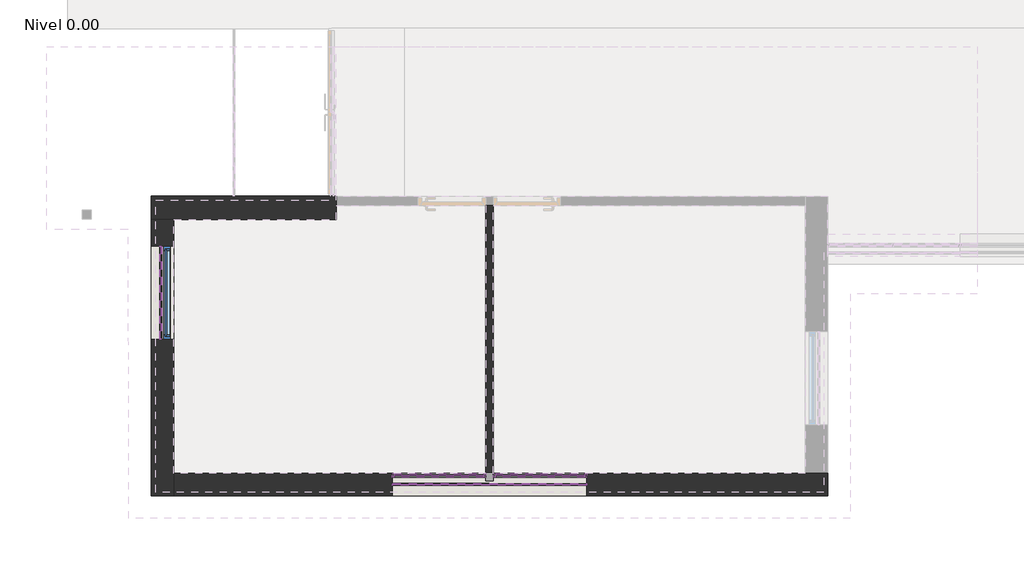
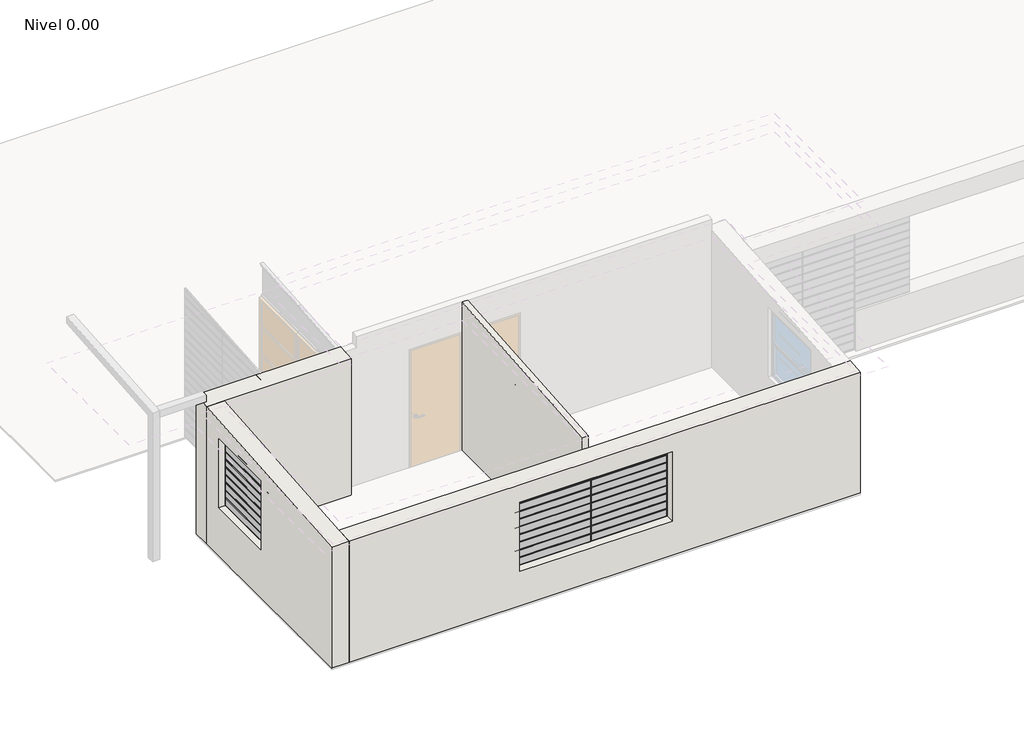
# One storey, part 1 of 27: 89 members, 31 plates, 4 walls, 1 window.
"""IFC4 building model written with IfcOpenShell, lengths in millimetres."""

from ifc_helpers import new_model, si_unit, frame, origin, place, context, project, spatial, polyline, outline, extrude, faceted_brep, transform, mapped, element, save
from components import circular_mullion_edf12572, circular_mullion_5fc61161, l_corner_mullion_ffe6738e, l_corner_mullion_b20a5560, rectangular_mullion_01e7d57b, rectangular_mullion_da198025, rectangular_mullion_fe8fcd1f, rectangular_mullion_df0a624f, rectangular_mullion_9be61cad, rectangular_mullion_3a2f2e9c, rectangular_mullion_9a28259a, system_panel_1e98c8c1, system_panel_f1ade770, system_panel_1891fa89, system_panel_e1d120a6, system_panel_glazed_873ae882, system_panel_glazed_855c2b63, vp_1250x1250mm_1945258d

model = new_model("IFC4")

# Units and contexts
model_context = context("Model", 3, world=origin())
ifc_project = project(units=[si_unit("LENGTHUNIT", "METRE", prefix="MILLI")], contexts=[model_context])

# Site, building, storey
site = spatial("IfcSite", under=ifc_project)
building = spatial("IfcBuilding", under=site)
storey = spatial("IfcBuildingStorey", under=building, Name="Nivel 0.00", Elevation=0.0)

# Members
placement = place(None, origin())
circular_mullion_shape = circular_mullion_edf12572(model_context)
element("IfcMember", 1, ObjectType="Circular Mullion : ARQ_HERR_16mm", at=placement, inside=storey, context=model_context, shape_type="MappedRepresentation", body=[
    mapped(circular_mullion_shape, transform((-10491.1218919, -6940.6047653, 738.8888889), x_axis=(0.0, 0.0, 1.0), y_axis=(0.0, -1.0, 0.0), z_axis=(1.0, 0.0, 0.0))),
])
element("IfcMember", 2, ObjectType="Circular Mullion : ARQ_HERR_16mm", at=placement, inside=storey, context=model_context, shape_type="MappedRepresentation", body=[
    mapped(circular_mullion_shape, transform((-9193.0112732, -6940.6047653, 738.8888889), x_axis=(0.0, 0.0, 1.0), y_axis=(0.0, -1.0, 0.0), z_axis=(1.0, 0.0, 0.0))),
])
element("IfcMember", 3, ObjectType="Circular Mullion : ARQ_HERR_16mm", at=placement, inside=storey, context=model_context, shape_type="MappedRepresentation", body=[
    mapped(circular_mullion_shape, transform((-10491.1218919, -6940.6047653, 877.7777778), x_axis=(0.0, 0.0, 1.0), y_axis=(0.0, -1.0, 0.0), z_axis=(1.0, 0.0, 0.0))),
])
element("IfcMember", 4, ObjectType="Circular Mullion : ARQ_HERR_16mm", at=placement, inside=storey, context=model_context, shape_type="MappedRepresentation", body=[
    mapped(circular_mullion_shape, transform((-9193.0112732, -6940.6047653, 877.7777778), x_axis=(0.0, 0.0, 1.0), y_axis=(0.0, -1.0, 0.0), z_axis=(1.0, 0.0, 0.0))),
])
element("IfcMember", 5, ObjectType="Circular Mullion : ARQ_HERR_16mm", at=placement, inside=storey, context=model_context, shape_type="MappedRepresentation", body=[
    mapped(circular_mullion_shape, transform((-10491.1218919, -6940.6047653, 1016.6666667), x_axis=(0.0, 0.0, 1.0), y_axis=(0.0, -1.0, 0.0), z_axis=(1.0, 0.0, 0.0))),
])
element("IfcMember", 6, ObjectType="Circular Mullion : ARQ_HERR_16mm", at=placement, inside=storey, context=model_context, shape_type="MappedRepresentation", body=[
    mapped(circular_mullion_shape, transform((-9193.0112732, -6940.6047653, 1016.6666667), x_axis=(0.0, 0.0, 1.0), y_axis=(0.0, -1.0, 0.0), z_axis=(1.0, 0.0, 0.0))),
])
element("IfcMember", 7, ObjectType="Circular Mullion : ARQ_HERR_16mm", at=placement, inside=storey, context=model_context, shape_type="MappedRepresentation", body=[
    mapped(circular_mullion_shape, transform((-10491.1218919, -6940.6047653, 1155.5555556), x_axis=(0.0, 0.0, 1.0), y_axis=(0.0, -1.0, 0.0), z_axis=(1.0, 0.0, 0.0))),
])
element("IfcMember", 8, ObjectType="Circular Mullion : ARQ_HERR_16mm", at=placement, inside=storey, context=model_context, shape_type="MappedRepresentation", body=[
    mapped(circular_mullion_shape, transform((-9193.0112732, -6940.6047653, 1155.5555556), x_axis=(0.0, 0.0, 1.0), y_axis=(0.0, -1.0, 0.0), z_axis=(1.0, 0.0, 0.0))),
])
element("IfcMember", 9, ObjectType="Circular Mullion : ARQ_HERR_16mm", at=placement, inside=storey, context=model_context, shape_type="MappedRepresentation", body=[
    mapped(circular_mullion_shape, transform((-10491.1218919, -6940.6047653, 1294.4444444), x_axis=(0.0, 0.0, 1.0), y_axis=(0.0, -1.0, 0.0), z_axis=(1.0, 0.0, 0.0))),
])
element("IfcMember", 10, ObjectType="Circular Mullion : ARQ_HERR_16mm", at=placement, inside=storey, context=model_context, shape_type="MappedRepresentation", body=[
    mapped(circular_mullion_shape, transform((-9193.0112732, -6940.6047653, 1294.4444444), x_axis=(0.0, 0.0, 1.0), y_axis=(0.0, -1.0, 0.0), z_axis=(1.0, 0.0, 0.0))),
])
element("IfcMember", 11, ObjectType="Circular Mullion : ARQ_HERR_16mm", at=placement, inside=storey, context=model_context, shape_type="MappedRepresentation", body=[
    mapped(circular_mullion_shape, transform((-10491.1218919, -6940.6047653, 1433.3333333), x_axis=(0.0, 0.0, 1.0), y_axis=(0.0, -1.0, 0.0), z_axis=(1.0, 0.0, 0.0))),
])
element("IfcMember", 12, ObjectType="Circular Mullion : ARQ_HERR_16mm", at=placement, inside=storey, context=model_context, shape_type="MappedRepresentation", body=[
    mapped(circular_mullion_shape, transform((-9193.0112732, -6940.6047653, 1433.3333333), x_axis=(0.0, 0.0, 1.0), y_axis=(0.0, -1.0, 0.0), z_axis=(1.0, 0.0, 0.0))),
])
element("IfcMember", 13, ObjectType="Circular Mullion : ARQ_HERR_16mm", at=placement, inside=storey, context=model_context, shape_type="MappedRepresentation", body=[
    mapped(circular_mullion_shape, transform((-10491.1218919, -6940.6047653, 1572.2222222), x_axis=(0.0, 0.0, 1.0), y_axis=(0.0, -1.0, 0.0), z_axis=(1.0, 0.0, 0.0))),
])
element("IfcMember", 14, ObjectType="Circular Mullion : ARQ_HERR_16mm", at=placement, inside=storey, context=model_context, shape_type="MappedRepresentation", body=[
    mapped(circular_mullion_shape, transform((-9193.0112732, -6940.6047653, 1572.2222222), x_axis=(0.0, 0.0, 1.0), y_axis=(0.0, -1.0, 0.0), z_axis=(1.0, 0.0, 0.0))),
])
element("IfcMember", 15, ObjectType="Circular Mullion : ARQ_HERR_16mm", at=placement, inside=storey, context=model_context, shape_type="MappedRepresentation", body=[
    mapped(circular_mullion_shape, transform((-10491.1218919, -6940.6047653, 1711.1111111), x_axis=(0.0, 0.0, 1.0), y_axis=(0.0, -1.0, 0.0), z_axis=(1.0, 0.0, 0.0))),
])
element("IfcMember", 16, ObjectType="Circular Mullion : ARQ_HERR_16mm", at=placement, inside=storey, context=model_context, shape_type="MappedRepresentation", body=[
    mapped(circular_mullion_shape, transform((-9193.0112732, -6940.6047653, 1711.1111111), x_axis=(0.0, 0.0, 1.0), y_axis=(0.0, -1.0, 0.0), z_axis=(1.0, 0.0, 0.0))),
])
circular_mullion_2_shape = circular_mullion_5fc61161(model_context)
element("IfcMember", 17, ObjectType="Circular Mullion : ARQ_HERR_16mm", at=placement, inside=storey, context=model_context, shape_type="MappedRepresentation", body=[
    mapped(circular_mullion_2_shape, transform((-14883.0691788, -4992.0878798, 988.8888889), x_axis=(0.0, 0.0, 1.0), y_axis=(-1.0, 0.0, 0.0), z_axis=(0.0, -1.0, 0.0))),
])
element("IfcMember", 18, ObjectType="Circular Mullion : ARQ_HERR_16mm", at=placement, inside=storey, context=model_context, shape_type="MappedRepresentation", body=[
    mapped(circular_mullion_2_shape, transform((-14883.0691788, -4992.0878798, 1127.7777778), x_axis=(0.0, 0.0, 1.0), y_axis=(-1.0, 0.0, 0.0), z_axis=(0.0, -1.0, 0.0))),
])
element("IfcMember", 19, ObjectType="Circular Mullion : ARQ_HERR_16mm", at=placement, inside=storey, context=model_context, shape_type="MappedRepresentation", body=[
    mapped(circular_mullion_2_shape, transform((-14883.0691788, -4992.0878798, 1266.6666667), x_axis=(0.0, 0.0, 1.0), y_axis=(-1.0, 0.0, 0.0), z_axis=(0.0, -1.0, 0.0))),
])
element("IfcMember", 20, ObjectType="Circular Mullion : ARQ_HERR_16mm", at=placement, inside=storey, context=model_context, shape_type="MappedRepresentation", body=[
    mapped(circular_mullion_2_shape, transform((-14883.0691788, -4992.0878798, 1405.5555556), x_axis=(0.0, 0.0, 1.0), y_axis=(-1.0, 0.0, 0.0), z_axis=(0.0, -1.0, 0.0))),
])
element("IfcMember", 21, ObjectType="Circular Mullion : ARQ_HERR_16mm", at=placement, inside=storey, context=model_context, shape_type="MappedRepresentation", body=[
    mapped(circular_mullion_2_shape, transform((-14883.0691788, -4992.0878798, 1544.4444444), x_axis=(0.0, 0.0, 1.0), y_axis=(-1.0, 0.0, 0.0), z_axis=(0.0, -1.0, 0.0))),
])
element("IfcMember", 22, ObjectType="Circular Mullion : ARQ_HERR_16mm", at=placement, inside=storey, context=model_context, shape_type="MappedRepresentation", body=[
    mapped(circular_mullion_2_shape, transform((-14883.0691788, -4992.0878798, 1683.3333333), x_axis=(0.0, 0.0, 1.0), y_axis=(-1.0, 0.0, 0.0), z_axis=(0.0, -1.0, 0.0))),
])
element("IfcMember", 23, ObjectType="Circular Mullion : ARQ_HERR_16mm", at=placement, inside=storey, context=model_context, shape_type="MappedRepresentation", body=[
    mapped(circular_mullion_2_shape, transform((-14883.0691788, -4992.0878798, 1822.2222222), x_axis=(0.0, 0.0, 1.0), y_axis=(-1.0, 0.0, 0.0), z_axis=(0.0, -1.0, 0.0))),
])
element("IfcMember", 24, ObjectType="Circular Mullion : ARQ_HERR_16mm", at=placement, inside=storey, context=model_context, shape_type="MappedRepresentation", body=[
    mapped(circular_mullion_2_shape, transform((-14883.0691788, -4992.0878798, 1961.1111111), x_axis=(0.0, 0.0, 1.0), y_axis=(-1.0, 0.0, 0.0), z_axis=(0.0, -1.0, 0.0))),
])
l_corner_mullion_shape = l_corner_mullion_ffe6738e(model_context)
element("IfcMember", 25, ObjectType="L Corner Mullion : ARQ_HERR_15X6mm", at=placement, inside=storey, context=model_context, shape_type="MappedRepresentation", body=[
    mapped(l_corner_mullion_shape, transform((-9193.0112732, -6940.6047653, 1850.0), x_axis=(0.0, 0.0, 1.0), y_axis=(0.0, -1.0, 0.0), z_axis=(1.0, 0.0, 0.0))),
])
element("IfcMember", 26, ObjectType="L Corner Mullion : ARQ_HERR_15X6mm", at=placement, inside=storey, context=model_context, shape_type="MappedRepresentation", body=[
    mapped(l_corner_mullion_shape, transform((-10491.1218919, -6940.6047653, 1850.0), x_axis=(0.0, 0.0, 1.0), y_axis=(0.0, -1.0, 0.0), z_axis=(1.0, 0.0, 0.0))),
])
element("IfcMember", 27, ObjectType="L Corner Mullion : ARQ_HERR_15X6mm", at=placement, inside=storey, context=model_context, shape_type="MappedRepresentation", body=[
    mapped(l_corner_mullion_shape, transform((-11783.2325105, -6940.6047653, 600.0), x_axis=(0.0, 0.0, -1.0), y_axis=(0.0, -1.0, 0.0), z_axis=(-1.0, 0.0, 0.0))),
])
element("IfcMember", 28, ObjectType="L Corner Mullion : ARQ_HERR_15X6mm", at=placement, inside=storey, context=model_context, shape_type="MappedRepresentation", body=[
    mapped(l_corner_mullion_shape, transform((-10485.1218919, -6940.6047653, 600.0), x_axis=(0.0, 0.0, -1.0), y_axis=(0.0, -1.0, 0.0), z_axis=(-1.0, 0.0, 0.0))),
])
l_corner_mullion_2_shape = l_corner_mullion_b20a5560(model_context)
element("IfcMember", 29, ObjectType="L Corner Mullion : ARQ_HERR_15X6mm", at=placement, inside=storey, context=model_context, shape_type="MappedRepresentation", body=[
    mapped(l_corner_mullion_2_shape, transform((-14883.0691788, -4992.0878798, 2100.0), x_axis=(0.0, 0.0, 1.0), y_axis=(-1.0, 0.0, 0.0), z_axis=(0.0, -1.0, 0.0))),
])
element("IfcMember", 30, ObjectType="L Corner Mullion : ARQ_HERR_15X6mm", at=placement, inside=storey, context=model_context, shape_type="MappedRepresentation", body=[
    mapped(l_corner_mullion_2_shape, transform((-14883.0691788, -3754.0878798, 850.0), x_axis=(0.0, 0.0, -1.0), y_axis=(-1.0, 0.0, 0.0), z_axis=(0.0, 1.0, 0.0))),
])
rectangular_mullion_shape = rectangular_mullion_01e7d57b(model_context)
element("IfcMember", 31, ObjectType="Rectangular Mullion : ARQ_TV_MULL_50x30mm", at=placement, inside=storey, context=model_context, shape_type="MappedRepresentation", body=[
    mapped(rectangular_mullion_shape, transform((-10567.8124755, -6815.6047653, 1850.0), x_axis=(0.0, 0.0, 1.0), y_axis=(0.0, -1.0, 0.0), z_axis=(1.0, 0.0, 0.0))),
])
element("IfcMember", 32, ObjectType="Rectangular Mullion : ARQ_TV_MULL_50x30mm", at=placement, inside=storey, context=model_context, shape_type="MappedRepresentation", body=[
    mapped(rectangular_mullion_shape, transform((-11759.2325105, -6815.6047653, 600.0), x_axis=(0.0, 0.0, -1.0), y_axis=(0.0, -1.0, 0.0), z_axis=(-1.0, 0.0, 0.0))),
])
rectangular_mullion_2_shape = rectangular_mullion_da198025(model_context)
element("IfcMember", 33, ObjectType="Rectangular Mullion : ARQ_TV_MULL_50x30mm", at=placement, inside=storey, context=model_context, shape_type="MappedRepresentation", body=[
    mapped(rectangular_mullion_2_shape, transform((-10567.8124755, -6815.6047653, 1225.0), x_axis=(0.0, 0.0, 1.0), y_axis=(0.0, -1.0, 0.0), z_axis=(1.0, 0.0, 0.0))),
])
rectangular_mullion_3_shape = rectangular_mullion_fe8fcd1f(model_context)
element("IfcMember", 34, ObjectType="Rectangular Mullion : ARQ_TV_MULL_50x30mm", at=placement, inside=storey, context=model_context, shape_type="MappedRepresentation", body=[
    mapped(rectangular_mullion_3_shape, transform((-10407.8124755, -6815.6047653, 1850.0), x_axis=(0.0, 0.0, 1.0), y_axis=(0.0, 1.0, 0.0), z_axis=(-1.0, 0.0, 0.0))),
])
element("IfcMember", 35, ObjectType="Rectangular Mullion : ARQ_TV_MULL_50x30mm", at=placement, inside=storey, context=model_context, shape_type="MappedRepresentation", body=[
    mapped(rectangular_mullion_3_shape, transform((-9217.0112732, -6815.6047653, 600.0), x_axis=(0.0, 0.0, -1.0), y_axis=(0.0, 1.0, 0.0), z_axis=(1.0, 0.0, 0.0))),
])
rectangular_mullion_4_shape = rectangular_mullion_df0a624f(model_context)
element("IfcMember", 36, ObjectType="Rectangular Mullion : ARQ_TV_MULL_50x30mm", at=placement, inside=storey, context=model_context, shape_type="MappedRepresentation", body=[
    mapped(rectangular_mullion_4_shape, transform((-10407.8124755, -6815.6047653, 1225.0), x_axis=(0.0, 0.0, 1.0), y_axis=(0.0, 1.0, 0.0), z_axis=(-1.0, 0.0, 0.0))),
])
rectangular_mullion_5_shape = rectangular_mullion_9be61cad(model_context)
element("IfcMember", 37, ObjectType="Rectangular Mullion : ARQ_TV_MULL_50x30mm", at=placement, inside=storey, context=model_context, shape_type="MappedRepresentation", body=[
    mapped(rectangular_mullion_5_shape, transform((-10437.8124755, -6815.6047653, 600.0), x_axis=(-1.0, 0.0, 0.0), y_axis=(0.0, 1.0, 0.0), z_axis=(0.0, 0.0, -1.0))),
])
element("IfcMember", 38, ObjectType="Rectangular Mullion : ARQ_TV_MULL_50x30mm", at=placement, inside=storey, context=model_context, shape_type="MappedRepresentation", body=[
    mapped(rectangular_mullion_5_shape, transform((-10437.8124755, -6815.6047653, 1225.0), x_axis=(-1.0, 0.0, 0.0), y_axis=(0.0, 1.0, 0.0), z_axis=(0.0, 0.0, -1.0))),
])
element("IfcMember", 39, ObjectType="Rectangular Mullion : ARQ_TV_MULL_50x30mm", at=placement, inside=storey, context=model_context, shape_type="MappedRepresentation", body=[
    mapped(rectangular_mullion_5_shape, transform((-9187.0112732, -6815.6047653, 1850.0), x_axis=(1.0, 0.0, 0.0), y_axis=(0.0, 1.0, 0.0), z_axis=(0.0, 0.0, 1.0))),
])
element("IfcMember", 40, ObjectType="Rectangular Mullion : ARQ_TV_MULL_50x30mm", at=placement, inside=storey, context=model_context, shape_type="MappedRepresentation", body=[
    mapped(rectangular_mullion_5_shape, transform((-9187.0112732, -6815.6047653, 1225.0), x_axis=(1.0, 0.0, 0.0), y_axis=(0.0, 1.0, 0.0), z_axis=(0.0, 0.0, 1.0))),
])
element("IfcMember", 41, ObjectType="Rectangular Mullion : ARQ_TV_MULL_50x30mm", at=placement, inside=storey, context=model_context, shape_type="MappedRepresentation", body=[
    mapped(rectangular_mullion_5_shape, transform((-10537.8124755, -6815.6047653, 600.0), x_axis=(1.0, 0.0, 0.0), y_axis=(0.0, -1.0, 0.0), z_axis=(0.0, 0.0, -1.0))),
])
element("IfcMember", 42, ObjectType="Rectangular Mullion : ARQ_TV_MULL_50x30mm", at=placement, inside=storey, context=model_context, shape_type="MappedRepresentation", body=[
    mapped(rectangular_mullion_5_shape, transform((-10537.8124755, -6815.6047653, 1225.0), x_axis=(1.0, 0.0, 0.0), y_axis=(0.0, -1.0, 0.0), z_axis=(0.0, 0.0, -1.0))),
])
element("IfcMember", 43, ObjectType="Rectangular Mullion : ARQ_TV_MULL_50x30mm", at=placement, inside=storey, context=model_context, shape_type="MappedRepresentation", body=[
    mapped(rectangular_mullion_5_shape, transform((-11789.2325105, -6815.6047653, 1850.0), x_axis=(-1.0, 0.0, 0.0), y_axis=(0.0, -1.0, 0.0), z_axis=(0.0, 0.0, 1.0))),
])
element("IfcMember", 44, ObjectType="Rectangular Mullion : ARQ_TV_MULL_50x30mm", at=placement, inside=storey, context=model_context, shape_type="MappedRepresentation", body=[
    mapped(rectangular_mullion_5_shape, transform((-11789.2325105, -6815.6047653, 1225.0), x_axis=(-1.0, 0.0, 0.0), y_axis=(0.0, -1.0, 0.0), z_axis=(0.0, 0.0, 1.0))),
])
rectangular_mullion_6_shape = rectangular_mullion_3a2f2e9c(model_context)
element("IfcMember", 45, ObjectType="Rectangular Mullion : ARQ_HERR_15X6mm", at=placement, inside=storey, context=model_context, shape_type="MappedRepresentation", body=[
    mapped(rectangular_mullion_6_shape, transform((-10488.1218919, -6940.6047653, 600.0), x_axis=(1.0, 0.0, 0.0), y_axis=(0.0, -1.0, 0.0), z_axis=(0.0, 0.0, -1.0))),
])
element("IfcMember", 46, ObjectType="Rectangular Mullion : ARQ_HERR_15X6mm", at=placement, inside=storey, context=model_context, shape_type="MappedRepresentation", body=[
    mapped(rectangular_mullion_6_shape, transform((-10488.1218919, -6940.6047653, 738.8888889), x_axis=(1.0, 0.0, 0.0), y_axis=(0.0, -1.0, 0.0), z_axis=(0.0, 0.0, -1.0))),
])
element("IfcMember", 47, ObjectType="Rectangular Mullion : ARQ_HERR_15X6mm", at=placement, inside=storey, context=model_context, shape_type="MappedRepresentation", body=[
    mapped(rectangular_mullion_6_shape, transform((-10488.1218919, -6940.6047653, 877.7777778), x_axis=(1.0, 0.0, 0.0), y_axis=(0.0, -1.0, 0.0), z_axis=(0.0, 0.0, -1.0))),
])
element("IfcMember", 48, ObjectType="Rectangular Mullion : ARQ_HERR_15X6mm", at=placement, inside=storey, context=model_context, shape_type="MappedRepresentation", body=[
    mapped(rectangular_mullion_6_shape, transform((-10488.1218919, -6940.6047653, 1016.6666667), x_axis=(1.0, 0.0, 0.0), y_axis=(0.0, -1.0, 0.0), z_axis=(0.0, 0.0, -1.0))),
])
element("IfcMember", 49, ObjectType="Rectangular Mullion : ARQ_HERR_15X6mm", at=placement, inside=storey, context=model_context, shape_type="MappedRepresentation", body=[
    mapped(rectangular_mullion_6_shape, transform((-10488.1218919, -6940.6047653, 1155.5555556), x_axis=(1.0, 0.0, 0.0), y_axis=(0.0, -1.0, 0.0), z_axis=(0.0, 0.0, -1.0))),
])
element("IfcMember", 50, ObjectType="Rectangular Mullion : ARQ_HERR_15X6mm", at=placement, inside=storey, context=model_context, shape_type="MappedRepresentation", body=[
    mapped(rectangular_mullion_6_shape, transform((-10488.1218919, -6940.6047653, 1294.4444444), x_axis=(1.0, 0.0, 0.0), y_axis=(0.0, -1.0, 0.0), z_axis=(0.0, 0.0, -1.0))),
])
element("IfcMember", 51, ObjectType="Rectangular Mullion : ARQ_HERR_15X6mm", at=placement, inside=storey, context=model_context, shape_type="MappedRepresentation", body=[
    mapped(rectangular_mullion_6_shape, transform((-10488.1218919, -6940.6047653, 1433.3333333), x_axis=(1.0, 0.0, 0.0), y_axis=(0.0, -1.0, 0.0), z_axis=(0.0, 0.0, -1.0))),
])
element("IfcMember", 52, ObjectType="Rectangular Mullion : ARQ_HERR_15X6mm", at=placement, inside=storey, context=model_context, shape_type="MappedRepresentation", body=[
    mapped(rectangular_mullion_6_shape, transform((-10488.1218919, -6940.6047653, 1572.2222222), x_axis=(1.0, 0.0, 0.0), y_axis=(0.0, -1.0, 0.0), z_axis=(0.0, 0.0, -1.0))),
])
element("IfcMember", 53, ObjectType="Rectangular Mullion : ARQ_HERR_15X6mm", at=placement, inside=storey, context=model_context, shape_type="MappedRepresentation", body=[
    mapped(rectangular_mullion_6_shape, transform((-10488.1218919, -6940.6047653, 1711.1111111), x_axis=(1.0, 0.0, 0.0), y_axis=(0.0, -1.0, 0.0), z_axis=(0.0, 0.0, -1.0))),
])
rectangular_mullion_7_shape = rectangular_mullion_9a28259a(model_context)
element("IfcMember", 54, ObjectType="Rectangular Mullion : ARQ_HERR_15X6mm", at=placement, inside=storey, context=model_context, shape_type="MappedRepresentation", body=[
    mapped(rectangular_mullion_7_shape, transform((-9187.0112732, -6940.6047653, 600.0), x_axis=(1.0, 0.0, 0.0), y_axis=(0.0, -1.0, 0.0), z_axis=(0.0, 0.0, -1.0))),
])
element("IfcMember", 55, ObjectType="Rectangular Mullion : ARQ_HERR_15X6mm", at=placement, inside=storey, context=model_context, shape_type="MappedRepresentation", body=[
    mapped(rectangular_mullion_7_shape, transform((-14883.0691788, -4998.0878798, 850.0), x_axis=(0.0, -1.0, 0.0), y_axis=(-1.0, 0.0, 0.0), z_axis=(0.0, 0.0, -1.0))),
])
element("IfcMember", 56, ObjectType="Rectangular Mullion : ARQ_HERR_15X6mm", at=placement, inside=storey, context=model_context, shape_type="MappedRepresentation", body=[
    mapped(rectangular_mullion_7_shape, transform((-9187.0112732, -6940.6047653, 738.8888889), x_axis=(1.0, 0.0, 0.0), y_axis=(0.0, -1.0, 0.0), z_axis=(0.0, 0.0, -1.0))),
])
element("IfcMember", 57, ObjectType="Rectangular Mullion : ARQ_HERR_15X6mm", at=placement, inside=storey, context=model_context, shape_type="MappedRepresentation", body=[
    mapped(rectangular_mullion_7_shape, transform((-9187.0112732, -6940.6047653, 877.7777778), x_axis=(1.0, 0.0, 0.0), y_axis=(0.0, -1.0, 0.0), z_axis=(0.0, 0.0, -1.0))),
])
element("IfcMember", 58, ObjectType="Rectangular Mullion : ARQ_HERR_15X6mm", at=placement, inside=storey, context=model_context, shape_type="MappedRepresentation", body=[
    mapped(rectangular_mullion_7_shape, transform((-9187.0112732, -6940.6047653, 1016.6666667), x_axis=(1.0, 0.0, 0.0), y_axis=(0.0, -1.0, 0.0), z_axis=(0.0, 0.0, -1.0))),
])
element("IfcMember", 59, ObjectType="Rectangular Mullion : ARQ_HERR_15X6mm", at=placement, inside=storey, context=model_context, shape_type="MappedRepresentation", body=[
    mapped(rectangular_mullion_7_shape, transform((-9187.0112732, -6940.6047653, 1155.5555556), x_axis=(1.0, 0.0, 0.0), y_axis=(0.0, -1.0, 0.0), z_axis=(0.0, 0.0, -1.0))),
])
element("IfcMember", 60, ObjectType="Rectangular Mullion : ARQ_HERR_15X6mm", at=placement, inside=storey, context=model_context, shape_type="MappedRepresentation", body=[
    mapped(rectangular_mullion_7_shape, transform((-9187.0112732, -6940.6047653, 1294.4444444), x_axis=(1.0, 0.0, 0.0), y_axis=(0.0, -1.0, 0.0), z_axis=(0.0, 0.0, -1.0))),
])
element("IfcMember", 61, ObjectType="Rectangular Mullion : ARQ_HERR_15X6mm", at=placement, inside=storey, context=model_context, shape_type="MappedRepresentation", body=[
    mapped(rectangular_mullion_7_shape, transform((-9187.0112732, -6940.6047653, 1433.3333333), x_axis=(1.0, 0.0, 0.0), y_axis=(0.0, -1.0, 0.0), z_axis=(0.0, 0.0, -1.0))),
])
element("IfcMember", 62, ObjectType="Rectangular Mullion : ARQ_HERR_15X6mm", at=placement, inside=storey, context=model_context, shape_type="MappedRepresentation", body=[
    mapped(rectangular_mullion_7_shape, transform((-9187.0112732, -6940.6047653, 1572.2222222), x_axis=(1.0, 0.0, 0.0), y_axis=(0.0, -1.0, 0.0), z_axis=(0.0, 0.0, -1.0))),
])
element("IfcMember", 63, ObjectType="Rectangular Mullion : ARQ_HERR_15X6mm", at=placement, inside=storey, context=model_context, shape_type="MappedRepresentation", body=[
    mapped(rectangular_mullion_7_shape, transform((-14883.0691788, -4998.0878798, 988.8888889), x_axis=(0.0, -1.0, 0.0), y_axis=(-1.0, 0.0, 0.0), z_axis=(0.0, 0.0, -1.0))),
])
element("IfcMember", 64, ObjectType="Rectangular Mullion : ARQ_HERR_15X6mm", at=placement, inside=storey, context=model_context, shape_type="MappedRepresentation", body=[
    mapped(rectangular_mullion_7_shape, transform((-14883.0691788, -4998.0878798, 1127.7777778), x_axis=(0.0, -1.0, 0.0), y_axis=(-1.0, 0.0, 0.0), z_axis=(0.0, 0.0, -1.0))),
])
element("IfcMember", 65, ObjectType="Rectangular Mullion : ARQ_HERR_15X6mm", at=placement, inside=storey, context=model_context, shape_type="MappedRepresentation", body=[
    mapped(rectangular_mullion_7_shape, transform((-14883.0691788, -4998.0878798, 1266.6666667), x_axis=(0.0, -1.0, 0.0), y_axis=(-1.0, 0.0, 0.0), z_axis=(0.0, 0.0, -1.0))),
])
element("IfcMember", 66, ObjectType="Rectangular Mullion : ARQ_HERR_15X6mm", at=placement, inside=storey, context=model_context, shape_type="MappedRepresentation", body=[
    mapped(rectangular_mullion_7_shape, transform((-14883.0691788, -4998.0878798, 1405.5555556), x_axis=(0.0, -1.0, 0.0), y_axis=(-1.0, 0.0, 0.0), z_axis=(0.0, 0.0, -1.0))),
])
element("IfcMember", 67, ObjectType="Rectangular Mullion : ARQ_HERR_15X6mm", at=placement, inside=storey, context=model_context, shape_type="MappedRepresentation", body=[
    mapped(rectangular_mullion_7_shape, transform((-14883.0691788, -4998.0878798, 1544.4444444), x_axis=(0.0, -1.0, 0.0), y_axis=(-1.0, 0.0, 0.0), z_axis=(0.0, 0.0, -1.0))),
])
element("IfcMember", 68, ObjectType="Rectangular Mullion : ARQ_HERR_15X6mm", at=placement, inside=storey, context=model_context, shape_type="MappedRepresentation", body=[
    mapped(rectangular_mullion_7_shape, transform((-14883.0691788, -4998.0878798, 1683.3333333), x_axis=(0.0, -1.0, 0.0), y_axis=(-1.0, 0.0, 0.0), z_axis=(0.0, 0.0, -1.0))),
])
element("IfcMember", 69, ObjectType="Rectangular Mullion : ARQ_HERR_15X6mm", at=placement, inside=storey, context=model_context, shape_type="MappedRepresentation", body=[
    mapped(rectangular_mullion_7_shape, transform((-14883.0691788, -4998.0878798, 1822.2222222), x_axis=(0.0, -1.0, 0.0), y_axis=(-1.0, 0.0, 0.0), z_axis=(0.0, 0.0, -1.0))),
])
element("IfcMember", 70, ObjectType="Rectangular Mullion : ARQ_HERR_15X6mm", at=placement, inside=storey, context=model_context, shape_type="MappedRepresentation", body=[
    mapped(rectangular_mullion_7_shape, transform((-9187.0112732, -6940.6047653, 1711.1111111), x_axis=(1.0, 0.0, 0.0), y_axis=(0.0, -1.0, 0.0), z_axis=(0.0, 0.0, -1.0))),
])
element("IfcMember", 71, ObjectType="Rectangular Mullion : ARQ_HERR_15X6mm", at=placement, inside=storey, context=model_context, shape_type="MappedRepresentation", body=[
    mapped(rectangular_mullion_7_shape, transform((-14883.0691788, -4998.0878798, 1961.1111111), x_axis=(0.0, -1.0, 0.0), y_axis=(-1.0, 0.0, 0.0), z_axis=(0.0, 0.0, -1.0))),
])
element("IfcMember", 72, ObjectType="Rectangular Mullion : ARQ_HERR_15X6mm", at=placement, inside=storey, context=model_context, shape_type="MappedRepresentation", body=[
    mapped(rectangular_mullion_7_shape, transform((-11789.2325105, -6940.6047653, 1850.0), x_axis=(-1.0, 0.0, 0.0), y_axis=(0.0, -1.0, 0.0), z_axis=(0.0, 0.0, 1.0))),
])
element("IfcMember", 73, ObjectType="Rectangular Mullion : ARQ_HERR_15X6mm", at=placement, inside=storey, context=model_context, shape_type="MappedRepresentation", body=[
    mapped(rectangular_mullion_7_shape, transform((-14883.0691788, -3748.0878798, 2100.0), x_axis=(0.0, 1.0, 0.0), y_axis=(-1.0, 0.0, 0.0), z_axis=(0.0, 0.0, 1.0))),
])
element("IfcMember", 74, ObjectType="Rectangular Mullion : ARQ_HERR_15X6mm", at=placement, inside=storey, context=model_context, shape_type="MappedRepresentation", body=[
    mapped(rectangular_mullion_7_shape, transform((-11789.2325105, -6940.6047653, 738.8888889), x_axis=(-1.0, 0.0, 0.0), y_axis=(0.0, -1.0, 0.0), z_axis=(0.0, 0.0, 1.0))),
])
element("IfcMember", 75, ObjectType="Rectangular Mullion : ARQ_HERR_15X6mm", at=placement, inside=storey, context=model_context, shape_type="MappedRepresentation", body=[
    mapped(rectangular_mullion_7_shape, transform((-14883.0691788, -3748.0878798, 988.8888889), x_axis=(0.0, 1.0, 0.0), y_axis=(-1.0, 0.0, 0.0), z_axis=(0.0, 0.0, 1.0))),
])
element("IfcMember", 76, ObjectType="Rectangular Mullion : ARQ_HERR_15X6mm", at=placement, inside=storey, context=model_context, shape_type="MappedRepresentation", body=[
    mapped(rectangular_mullion_7_shape, transform((-11789.2325105, -6940.6047653, 877.7777778), x_axis=(-1.0, 0.0, 0.0), y_axis=(0.0, -1.0, 0.0), z_axis=(0.0, 0.0, 1.0))),
])
element("IfcMember", 77, ObjectType="Rectangular Mullion : ARQ_HERR_15X6mm", at=placement, inside=storey, context=model_context, shape_type="MappedRepresentation", body=[
    mapped(rectangular_mullion_7_shape, transform((-11789.2325105, -6940.6047653, 1016.6666667), x_axis=(-1.0, 0.0, 0.0), y_axis=(0.0, -1.0, 0.0), z_axis=(0.0, 0.0, 1.0))),
])
element("IfcMember", 78, ObjectType="Rectangular Mullion : ARQ_HERR_15X6mm", at=placement, inside=storey, context=model_context, shape_type="MappedRepresentation", body=[
    mapped(rectangular_mullion_7_shape, transform((-11789.2325105, -6940.6047653, 1155.5555556), x_axis=(-1.0, 0.0, 0.0), y_axis=(0.0, -1.0, 0.0), z_axis=(0.0, 0.0, 1.0))),
])
element("IfcMember", 79, ObjectType="Rectangular Mullion : ARQ_HERR_15X6mm", at=placement, inside=storey, context=model_context, shape_type="MappedRepresentation", body=[
    mapped(rectangular_mullion_7_shape, transform((-11789.2325105, -6940.6047653, 1294.4444444), x_axis=(-1.0, 0.0, 0.0), y_axis=(0.0, -1.0, 0.0), z_axis=(0.0, 0.0, 1.0))),
])
element("IfcMember", 80, ObjectType="Rectangular Mullion : ARQ_HERR_15X6mm", at=placement, inside=storey, context=model_context, shape_type="MappedRepresentation", body=[
    mapped(rectangular_mullion_7_shape, transform((-11789.2325105, -6940.6047653, 1433.3333333), x_axis=(-1.0, 0.0, 0.0), y_axis=(0.0, -1.0, 0.0), z_axis=(0.0, 0.0, 1.0))),
])
element("IfcMember", 81, ObjectType="Rectangular Mullion : ARQ_HERR_15X6mm", at=placement, inside=storey, context=model_context, shape_type="MappedRepresentation", body=[
    mapped(rectangular_mullion_7_shape, transform((-11789.2325105, -6940.6047653, 1572.2222222), x_axis=(-1.0, 0.0, 0.0), y_axis=(0.0, -1.0, 0.0), z_axis=(0.0, 0.0, 1.0))),
])
element("IfcMember", 82, ObjectType="Rectangular Mullion : ARQ_HERR_15X6mm", at=placement, inside=storey, context=model_context, shape_type="MappedRepresentation", body=[
    mapped(rectangular_mullion_7_shape, transform((-11789.2325105, -6940.6047653, 1711.1111111), x_axis=(-1.0, 0.0, 0.0), y_axis=(0.0, -1.0, 0.0), z_axis=(0.0, 0.0, 1.0))),
])
element("IfcMember", 83, ObjectType="Rectangular Mullion : ARQ_HERR_15X6mm", at=placement, inside=storey, context=model_context, shape_type="MappedRepresentation", body=[
    mapped(rectangular_mullion_7_shape, transform((-14883.0691788, -3748.0878798, 1127.7777778), x_axis=(0.0, 1.0, 0.0), y_axis=(-1.0, 0.0, 0.0), z_axis=(0.0, 0.0, 1.0))),
])
element("IfcMember", 84, ObjectType="Rectangular Mullion : ARQ_HERR_15X6mm", at=placement, inside=storey, context=model_context, shape_type="MappedRepresentation", body=[
    mapped(rectangular_mullion_7_shape, transform((-14883.0691788, -3748.0878798, 1266.6666667), x_axis=(0.0, 1.0, 0.0), y_axis=(-1.0, 0.0, 0.0), z_axis=(0.0, 0.0, 1.0))),
])
element("IfcMember", 85, ObjectType="Rectangular Mullion : ARQ_HERR_15X6mm", at=placement, inside=storey, context=model_context, shape_type="MappedRepresentation", body=[
    mapped(rectangular_mullion_7_shape, transform((-14883.0691788, -3748.0878798, 1405.5555556), x_axis=(0.0, 1.0, 0.0), y_axis=(-1.0, 0.0, 0.0), z_axis=(0.0, 0.0, 1.0))),
])
element("IfcMember", 86, ObjectType="Rectangular Mullion : ARQ_HERR_15X6mm", at=placement, inside=storey, context=model_context, shape_type="MappedRepresentation", body=[
    mapped(rectangular_mullion_7_shape, transform((-14883.0691788, -3748.0878798, 1544.4444444), x_axis=(0.0, 1.0, 0.0), y_axis=(-1.0, 0.0, 0.0), z_axis=(0.0, 0.0, 1.0))),
])
element("IfcMember", 87, ObjectType="Rectangular Mullion : ARQ_HERR_15X6mm", at=placement, inside=storey, context=model_context, shape_type="MappedRepresentation", body=[
    mapped(rectangular_mullion_7_shape, transform((-14883.0691788, -3748.0878798, 1683.3333333), x_axis=(0.0, 1.0, 0.0), y_axis=(-1.0, 0.0, 0.0), z_axis=(0.0, 0.0, 1.0))),
])
element("IfcMember", 88, ObjectType="Rectangular Mullion : ARQ_HERR_15X6mm", at=placement, inside=storey, context=model_context, shape_type="MappedRepresentation", body=[
    mapped(rectangular_mullion_7_shape, transform((-14883.0691788, -3748.0878798, 1822.2222222), x_axis=(0.0, 1.0, 0.0), y_axis=(-1.0, 0.0, 0.0), z_axis=(0.0, 0.0, 1.0))),
])
element("IfcMember", 89, ObjectType="Rectangular Mullion : ARQ_HERR_15X6mm", at=placement, inside=storey, context=model_context, shape_type="MappedRepresentation", body=[
    mapped(rectangular_mullion_7_shape, transform((-14883.0691788, -3748.0878798, 1961.1111111), x_axis=(0.0, 1.0, 0.0), y_axis=(-1.0, 0.0, 0.0), z_axis=(0.0, 0.0, 1.0))),
])

# Plates
system_panel_shape = system_panel_1e98c8c1(model_context)
element("IfcPlate", 90, ObjectType="System Panel : VACÍO", at=placement, inside=storey, context=model_context, shape_type="MappedRepresentation", body=[
    mapped(system_panel_shape, transform((-11137.1772012, -6940.6047653, 606.0), x_axis=(1.0, 0.0, 0.0), y_axis=(0.0, 1.0, 0.0), z_axis=(0.0, 0.0, 1.0))),
])
element("IfcPlate", 91, ObjectType="System Panel : VACÍO", at=placement, inside=storey, context=model_context, shape_type="MappedRepresentation", body=[
    mapped(system_panel_shape, transform((-9839.0665825, -6940.6047653, 606.0), x_axis=(1.0, 0.0, 0.0), y_axis=(0.0, 1.0, 0.0), z_axis=(0.0, 0.0, 1.0))),
])
element("IfcPlate", 92, ObjectType="System Panel : VACÍO", at=placement, inside=storey, context=model_context, shape_type="MappedRepresentation", body=[
    mapped(system_panel_shape, transform((-11137.1772012, -6940.6047653, 1719.1111111), x_axis=(1.0, 0.0, 0.0), y_axis=(0.0, 1.0, 0.0), z_axis=(0.0, 0.0, 1.0))),
])
element("IfcPlate", 93, ObjectType="System Panel : VACÍO", at=placement, inside=storey, context=model_context, shape_type="MappedRepresentation", body=[
    mapped(system_panel_shape, transform((-9839.0665825, -6940.6047653, 1719.1111111), x_axis=(1.0, 0.0, 0.0), y_axis=(0.0, 1.0, 0.0), z_axis=(0.0, 0.0, 1.0))),
])
system_panel_2_shape = system_panel_f1ade770(model_context)
element("IfcPlate", 94, ObjectType="System Panel : VACÍO", at=placement, inside=storey, context=model_context, shape_type="MappedRepresentation", body=[
    mapped(system_panel_2_shape, transform((-11137.1772012, -6940.6047653, 746.8888889), x_axis=(1.0, 0.0, 0.0), y_axis=(0.0, 1.0, 0.0), z_axis=(0.0, 0.0, 1.0))),
])
element("IfcPlate", 95, ObjectType="System Panel : VACÍO", at=placement, inside=storey, context=model_context, shape_type="MappedRepresentation", body=[
    mapped(system_panel_2_shape, transform((-9839.0665825, -6940.6047653, 746.8888889), x_axis=(1.0, 0.0, 0.0), y_axis=(0.0, 1.0, 0.0), z_axis=(0.0, 0.0, 1.0))),
])
element("IfcPlate", 96, ObjectType="System Panel : VACÍO", at=placement, inside=storey, context=model_context, shape_type="MappedRepresentation", body=[
    mapped(system_panel_2_shape, transform((-11137.1772012, -6940.6047653, 885.7777778), x_axis=(1.0, 0.0, 0.0), y_axis=(0.0, 1.0, 0.0), z_axis=(0.0, 0.0, 1.0))),
])
element("IfcPlate", 97, ObjectType="System Panel : VACÍO", at=placement, inside=storey, context=model_context, shape_type="MappedRepresentation", body=[
    mapped(system_panel_2_shape, transform((-9839.0665825, -6940.6047653, 885.7777778), x_axis=(1.0, 0.0, 0.0), y_axis=(0.0, 1.0, 0.0), z_axis=(0.0, 0.0, 1.0))),
])
element("IfcPlate", 98, ObjectType="System Panel : VACÍO", at=placement, inside=storey, context=model_context, shape_type="MappedRepresentation", body=[
    mapped(system_panel_2_shape, transform((-11137.1772012, -6940.6047653, 1024.6666667), x_axis=(1.0, 0.0, 0.0), y_axis=(0.0, 1.0, 0.0), z_axis=(0.0, 0.0, 1.0))),
])
element("IfcPlate", 99, ObjectType="System Panel : VACÍO", at=placement, inside=storey, context=model_context, shape_type="MappedRepresentation", body=[
    mapped(system_panel_2_shape, transform((-9839.0665825, -6940.6047653, 1024.6666667), x_axis=(1.0, 0.0, 0.0), y_axis=(0.0, 1.0, 0.0), z_axis=(0.0, 0.0, 1.0))),
])
element("IfcPlate", 100, ObjectType="System Panel : VACÍO", at=placement, inside=storey, context=model_context, shape_type="MappedRepresentation", body=[
    mapped(system_panel_2_shape, transform((-11137.1772012, -6940.6047653, 1163.5555556), x_axis=(1.0, 0.0, 0.0), y_axis=(0.0, 1.0, 0.0), z_axis=(0.0, 0.0, 1.0))),
])
element("IfcPlate", 101, ObjectType="System Panel : VACÍO", at=placement, inside=storey, context=model_context, shape_type="MappedRepresentation", body=[
    mapped(system_panel_2_shape, transform((-9839.0665825, -6940.6047653, 1163.5555556), x_axis=(1.0, 0.0, 0.0), y_axis=(0.0, 1.0, 0.0), z_axis=(0.0, 0.0, 1.0))),
])
element("IfcPlate", 102, ObjectType="System Panel : VACÍO", at=placement, inside=storey, context=model_context, shape_type="MappedRepresentation", body=[
    mapped(system_panel_2_shape, transform((-11137.1772012, -6940.6047653, 1302.4444444), x_axis=(1.0, 0.0, 0.0), y_axis=(0.0, 1.0, 0.0), z_axis=(0.0, 0.0, 1.0))),
])
element("IfcPlate", 103, ObjectType="System Panel : VACÍO", at=placement, inside=storey, context=model_context, shape_type="MappedRepresentation", body=[
    mapped(system_panel_2_shape, transform((-9839.0665825, -6940.6047653, 1302.4444444), x_axis=(1.0, 0.0, 0.0), y_axis=(0.0, 1.0, 0.0), z_axis=(0.0, 0.0, 1.0))),
])
element("IfcPlate", 104, ObjectType="System Panel : VACÍO", at=placement, inside=storey, context=model_context, shape_type="MappedRepresentation", body=[
    mapped(system_panel_2_shape, transform((-11137.1772012, -6940.6047653, 1441.3333333), x_axis=(1.0, 0.0, 0.0), y_axis=(0.0, 1.0, 0.0), z_axis=(0.0, 0.0, 1.0))),
])
element("IfcPlate", 105, ObjectType="System Panel : VACÍO", at=placement, inside=storey, context=model_context, shape_type="MappedRepresentation", body=[
    mapped(system_panel_2_shape, transform((-9839.0665825, -6940.6047653, 1441.3333333), x_axis=(1.0, 0.0, 0.0), y_axis=(0.0, 1.0, 0.0), z_axis=(0.0, 0.0, 1.0))),
])
element("IfcPlate", 106, ObjectType="System Panel : VACÍO", at=placement, inside=storey, context=model_context, shape_type="MappedRepresentation", body=[
    mapped(system_panel_2_shape, transform((-11137.1772012, -6940.6047653, 1580.2222222), x_axis=(1.0, 0.0, 0.0), y_axis=(0.0, 1.0, 0.0), z_axis=(0.0, 0.0, 1.0))),
])
element("IfcPlate", 107, ObjectType="System Panel : VACÍO", at=placement, inside=storey, context=model_context, shape_type="MappedRepresentation", body=[
    mapped(system_panel_2_shape, transform((-9839.0665825, -6940.6047653, 1580.2222222), x_axis=(1.0, 0.0, 0.0), y_axis=(0.0, 1.0, 0.0), z_axis=(0.0, 0.0, 1.0))),
])
system_panel_3_shape = system_panel_1891fa89(model_context)
element("IfcPlate", 108, ObjectType="System Panel : VACÍO", at=placement, inside=storey, context=model_context, shape_type="MappedRepresentation", body=[
    mapped(system_panel_3_shape, transform((-14883.0691788, -4373.0878798, 856.0), x_axis=(0.0, -1.0, 0.0), y_axis=(1.0, 0.0, 0.0), z_axis=(0.0, 0.0, 1.0))),
])
element("IfcPlate", 109, ObjectType="System Panel : VACÍO", at=placement, inside=storey, context=model_context, shape_type="MappedRepresentation", body=[
    mapped(system_panel_3_shape, transform((-14883.0691788, -4373.0878798, 1969.1111111), x_axis=(0.0, -1.0, 0.0), y_axis=(1.0, 0.0, 0.0), z_axis=(0.0, 0.0, 1.0))),
])
system_panel_4_shape = system_panel_e1d120a6(model_context)
element("IfcPlate", 110, ObjectType="System Panel : VACÍO", at=placement, inside=storey, context=model_context, shape_type="MappedRepresentation", body=[
    mapped(system_panel_4_shape, transform((-14883.0691788, -4373.0878798, 996.8888889), x_axis=(0.0, -1.0, 0.0), y_axis=(1.0, 0.0, 0.0), z_axis=(0.0, 0.0, 1.0))),
])
element("IfcPlate", 111, ObjectType="System Panel : VACÍO", at=placement, inside=storey, context=model_context, shape_type="MappedRepresentation", body=[
    mapped(system_panel_4_shape, transform((-14883.0691788, -4373.0878798, 1135.7777778), x_axis=(0.0, -1.0, 0.0), y_axis=(1.0, 0.0, 0.0), z_axis=(0.0, 0.0, 1.0))),
])
element("IfcPlate", 112, ObjectType="System Panel : VACÍO", at=placement, inside=storey, context=model_context, shape_type="MappedRepresentation", body=[
    mapped(system_panel_4_shape, transform((-14883.0691788, -4373.0878798, 1274.6666667), x_axis=(0.0, -1.0, 0.0), y_axis=(1.0, 0.0, 0.0), z_axis=(0.0, 0.0, 1.0))),
])
element("IfcPlate", 113, ObjectType="System Panel : VACÍO", at=placement, inside=storey, context=model_context, shape_type="MappedRepresentation", body=[
    mapped(system_panel_4_shape, transform((-14883.0691788, -4373.0878798, 1413.5555556), x_axis=(0.0, -1.0, 0.0), y_axis=(1.0, 0.0, 0.0), z_axis=(0.0, 0.0, 1.0))),
])
element("IfcPlate", 114, ObjectType="System Panel : VACÍO", at=placement, inside=storey, context=model_context, shape_type="MappedRepresentation", body=[
    mapped(system_panel_4_shape, transform((-14883.0691788, -4373.0878798, 1552.4444444), x_axis=(0.0, -1.0, 0.0), y_axis=(1.0, 0.0, 0.0), z_axis=(0.0, 0.0, 1.0))),
])
element("IfcPlate", 115, ObjectType="System Panel : VACÍO", at=placement, inside=storey, context=model_context, shape_type="MappedRepresentation", body=[
    mapped(system_panel_4_shape, transform((-14883.0691788, -4373.0878798, 1691.3333333), x_axis=(0.0, -1.0, 0.0), y_axis=(1.0, 0.0, 0.0), z_axis=(0.0, 0.0, 1.0))),
])
element("IfcPlate", 116, ObjectType="System Panel : VACÍO", at=placement, inside=storey, context=model_context, shape_type="MappedRepresentation", body=[
    mapped(system_panel_4_shape, transform((-14883.0691788, -4373.0878798, 1830.2222222), x_axis=(0.0, -1.0, 0.0), y_axis=(1.0, 0.0, 0.0), z_axis=(0.0, 0.0, 1.0))),
])
system_panel_glazed_shape = system_panel_glazed_873ae882(model_context)
element("IfcPlate", 117, ObjectType="System Panel : Glazed", at=placement, inside=storey, context=model_context, shape_type="MappedRepresentation", body=[
    mapped(system_panel_glazed_shape, transform((-9812.4118743, -6815.6047653, 630.0), x_axis=(-1.0, 0.0, 0.0), y_axis=(0.0, -1.0, 0.0), z_axis=(0.0, 0.0, 1.0))),
])
element("IfcPlate", 118, ObjectType="System Panel : Glazed", at=placement, inside=storey, context=model_context, shape_type="MappedRepresentation", body=[
    mapped(system_panel_glazed_shape, transform((-9812.4118743, -6815.6047653, 1240.0), x_axis=(-1.0, 0.0, 0.0), y_axis=(0.0, -1.0, 0.0), z_axis=(0.0, 0.0, 1.0))),
])
system_panel_glazed_2_shape = system_panel_glazed_855c2b63(model_context)
element("IfcPlate", 119, ObjectType="System Panel : Glazed", at=placement, inside=storey, context=model_context, shape_type="MappedRepresentation", body=[
    mapped(system_panel_glazed_2_shape, transform((-11163.522493, -6815.6047653, 630.0), x_axis=(1.0, 0.0, 0.0), y_axis=(0.0, 1.0, 0.0), z_axis=(0.0, 0.0, 1.0))),
])
element("IfcPlate", 120, ObjectType="System Panel : Glazed", at=placement, inside=storey, context=model_context, shape_type="MappedRepresentation", body=[
    mapped(system_panel_glazed_2_shape, transform((-11163.522493, -6815.6047653, 1240.0), x_axis=(1.0, 0.0, 0.0), y_axis=(0.0, 1.0, 0.0), z_axis=(0.0, 0.0, 1.0))),
])

# Walls
element("IfcWall", 121, ObjectType="ARQ_MUR_M01_315mm", at=placement, inside=storey, context=model_context, shape_type="Brep", body=[
    faceted_brep([(-12532.853063, -3083.1047653, -20.0), (-15005.5691788, -3083.1047653, -20.0), (-15005.5691788, -3083.1047653, 2486.1256336), (-12532.853063, -3083.1047653, 2486.1256336), (-12532.853063, -3398.1047653, -20.0), (-12532.853063, -3398.1047653, 2460.766297), (-14705.5691788, -3398.1047653, 2460.766297), (-15005.5691788, -3398.1047653, 2460.766297), (-15005.5691788, -3398.1047653, -20.0), (-14705.5691788, -3398.1047653, -20.0), (-12532.853063, -3090.6047653, -20.0), (-12532.853063, -3210.6047653, -20.0)], [[[0, 1, 2, 3]], [[4, 5, 6, 7, 8, 9]], [[1, 0, 10, 11, 4, 9, 8]], [[0, 3, 5, 4, 11, 10]], [[2, 1, 8, 7]], [[3, 2, 7, 6, 5]]]),
])
element("IfcWall", 122, ObjectType="ARQ_MUR_M02-V_300mm", at=placement, inside=storey, context=model_context, shape_type="Brep", body=[
    faceted_brep([(-15005.5691788, -3398.1047653, -20.0), (-15005.5691788, -7090.6047653, -20.0), (-15005.5691788, -7090.6047653, 2163.4985179), (-15005.5691788, -3398.1047653, 2460.766297), (-15005.5691788, -4998.0878798, 2100.0), (-15005.5691788, -4998.0878798, 850.0), (-15005.5691788, -3748.0878798, 850.0), (-15005.5691788, -3748.0878798, 2100.0), (-14705.5691788, -3398.1047653, -20.0), (-14705.5691788, -3398.1047653, 2460.766297), (-14705.5691788, -6790.6047653, 2187.650267), (-14705.5691788, -7090.6047653, 2163.4985179), (-14705.5691788, -7090.6047653, -20.0), (-14705.5691788, -6790.6047653, -20.0), (-14705.5691788, -4998.0878798, 2100.0), (-14705.5691788, -3748.0878798, 2100.0), (-14705.5691788, -3748.0878798, 850.0), (-14705.5691788, -4998.0878798, 850.0)], [[[0, 1, 2, 3], [4, 5, 6, 7]], [[8, 9, 10, 11, 12, 13], [14, 15, 16, 17]], [[1, 0, 8, 13, 12]], [[0, 3, 9, 8]], [[2, 1, 12, 11]], [[5, 4, 14, 17]], [[6, 5, 17, 16]], [[7, 6, 16, 15]], [[4, 7, 15, 14]], [[3, 2, 11, 10, 9]]]),
])
element("IfcWall", 123, ObjectType="ARQ_MUR_M02-V_300mm", at=placement, inside=storey, context=model_context, shape_type="Brep", body=[
    faceted_brep([(-14705.5691788, -7090.6047653, -20.0), (-5970.0557705, -7090.6047653, -20.0), (-5970.0557705, -7090.6047653, 2163.4985179), (-14705.5691788, -7090.6047653, 2163.4985179), (-11789.2325105, -7090.6047653, 600.0), (-11789.2325105, -7090.6047653, 1850.0), (-10537.8124755, -7090.6047653, 1850.0), (-10437.8124755, -7090.6047653, 1850.0), (-9187.0112732, -7090.6047653, 1850.0), (-9187.0112732, -7090.6047653, 600.0), (-10437.8124755, -7090.6047653, 600.0), (-10537.8124755, -7090.6047653, 600.0), (-5970.0557705, -6790.6047653, -20.0), (-6270.0557705, -6790.6047653, -20.0), (-14705.5691788, -6790.6047653, -20.0), (-14705.5691788, -6790.6047653, 2187.650267), (-6270.0557705, -6790.6047653, 2187.650267), (-5970.0557705, -6790.6047653, 2187.650267), (-11789.2325105, -6790.6047653, 1850.0), (-11789.2325105, -6790.6047653, 600.0), (-10537.8124755, -6790.6047653, 600.0), (-10437.8124755, -6790.6047653, 600.0), (-9187.0112732, -6790.6047653, 600.0), (-9187.0112732, -6790.6047653, 1850.0), (-10437.8124755, -6790.6047653, 1850.0), (-10537.8124755, -6790.6047653, 1850.0)], [[[0, 1, 2, 3], [4, 5, 6, 7, 8, 9, 10, 11]], [[12, 13, 14, 15, 16, 17], [18, 19, 20, 21, 22, 23, 24, 25]], [[1, 0, 14, 13, 12]], [[0, 3, 15, 14]], [[2, 1, 12, 17]], [[9, 22, 21, 20, 19, 4, 11, 10]], [[4, 19, 18, 5]], [[22, 9, 8, 23]], [[5, 18, 25, 24, 23, 8, 7, 6]], [[3, 2, 17, 16, 15]]]),
])
element("IfcWall", 124, ObjectType="ARQ_TAB_T01_100mm", at=placement, inside=storey, context=model_context, shape_type="SweptSolid", body=[
    extrude(outline(polyline([(-6775.6047653, -20.0), (-6775.6047653, 2389.5049266), (-3210.6047653, 2676.5082123), (-3210.6047653, -20.0), (-6775.6047653, -20.0)])), frame((-10537.8124755, 0.0, 0.0), z_axis=(1.0, 0.0, 0.0), x_axis=(0.0, 1.0, 0.0)), (0.0, 0.0, 1.0), 100.0),
])

# Window
vp_1250x1250mm_shape = vp_1250x1250mm_1945258d(model_context)
element("IfcWindow", 125, ObjectType="VENTANA_PROY_2HOJAS_HOR : VP_1250X1250mm", at=placement, inside=storey, context=model_context, shape_type="MappedRepresentation", body=[
    mapped(vp_1250x1250mm_shape, transform((-14864.0257466, -4373.0878798, -10.0), x_axis=(0.0, 1.0, 0.0), y_axis=(-1.0, 0.0, 0.0), z_axis=(0.0, 0.0, 1.0))),
])

save(model, "model.ifc")
